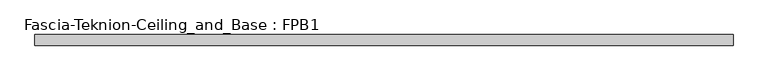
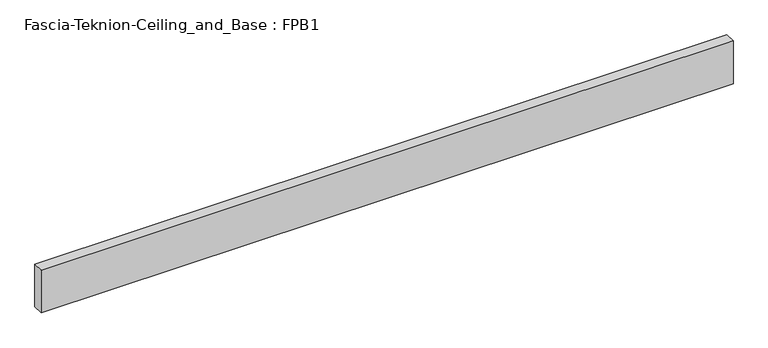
"""IFC4 building model written with IfcOpenShell, lengths in millimetres: proxy geometry, Fascia-Teknion-Ceiling_and_Base : FPB1."""

from ifc_helpers import new_model, si_unit, origin, origin_with_axes, place, context, project, spatial, polyline, outline, extrude, source, transform, mapped, element, save


def fascia_teknion_ceiling_and_base_fpb1_8b0997c1(model_context):
    return source(origin(), model_context, "Body", "SweptSolid", [
        extrude(outline(polyline([(624.8300781, 0.0), (-624.8300781, 0.0), (-624.8300781, 19.05), (624.8300781, 19.05), (624.8300781, 0.0)])), origin_with_axes(), (0.0, 0.0, 1.0), 81.28),
    ])


if __name__ == "__main__":
    model = new_model("IFC4")
    model_context = context("Model", 3, world=origin())
    ifc_project = project(units=[si_unit("LENGTHUNIT", "METRE", prefix="MILLI")], contexts=[model_context])
    site = spatial("IfcSite", under=ifc_project)
    building = spatial("IfcBuilding", under=site)
    placement = place(None, origin())
    fascia_teknion_ceiling_and_base_fpb1_shape = fascia_teknion_ceiling_and_base_fpb1_8b0997c1(model_context)
    element("IfcBuildingElementProxy", 1, Name="Fascia-Teknion-Ceiling_and_Base : FPB1", ObjectType="Fascia-Teknion-Ceiling_and_Base : FPB1", at=placement, inside=building, context=model_context, shape_type="MappedRepresentation", body=[
        mapped(fascia_teknion_ceiling_and_base_fpb1_shape, transform((0.0, 0.0, 0.0), x_axis=(1.0, 0.0, 0.0), y_axis=(0.0, 1.0, 0.0), z_axis=(0.0, 0.0, 1.0))),
    ])
    save(model, "model.ifc")
